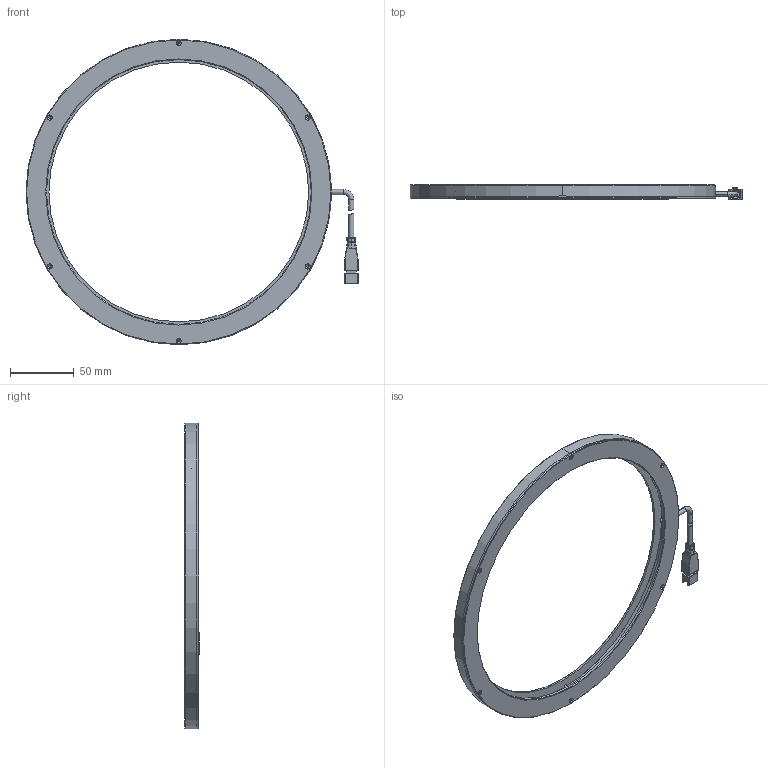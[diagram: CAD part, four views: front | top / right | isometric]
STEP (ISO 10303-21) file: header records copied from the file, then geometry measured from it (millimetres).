
FILE_DESCRIPTION (( 'STEP AP203' ), '1' );
FILE_NAME ('CRT-RL24000-¼òÒ×3DÍ¼.STEP', '2021-12-23T01:00:04', ( 'Admin' ), ( '' ), 'SwSTEP 2.0', 'SolidWorks 2018', '' );
FILE_SCHEMA (( 'CONFIG_CONTROL_DESIGN' ));
Length unit declared in the file: millimetre
Products named in the file (1): CRT-RL24000-潠眢3D芞
Bounding box: 260.75 x 11.4 x 240 mm (x, y, z)
Surface area: 65972.2 mm2 (no closed solid volume)
Topology: 0 solids, 10 shells, 238 faces, 752 edges, 499 vertices
Faces by surface type: plane 114, cylinder 85, cone 22, bspline 9, sphere 8
Entity records: 9217 total; most frequent: CARTESIAN_POINT 2553, DIRECTION 1401, ORIENTED_EDGE 1259, EDGE_CURVE 744, VERTEX_POINT 499, AXIS2_PLACEMENT_3D 488, LINE 425, VECTOR 425
